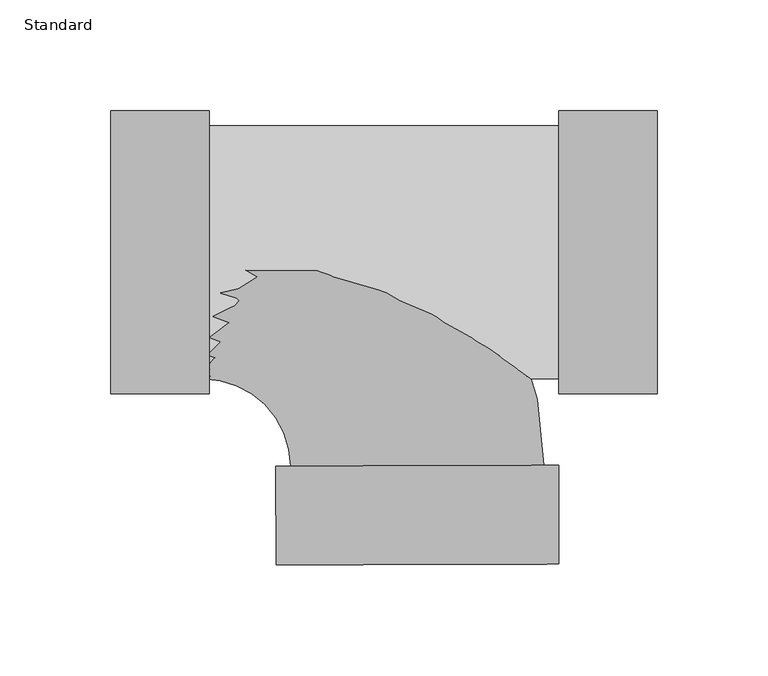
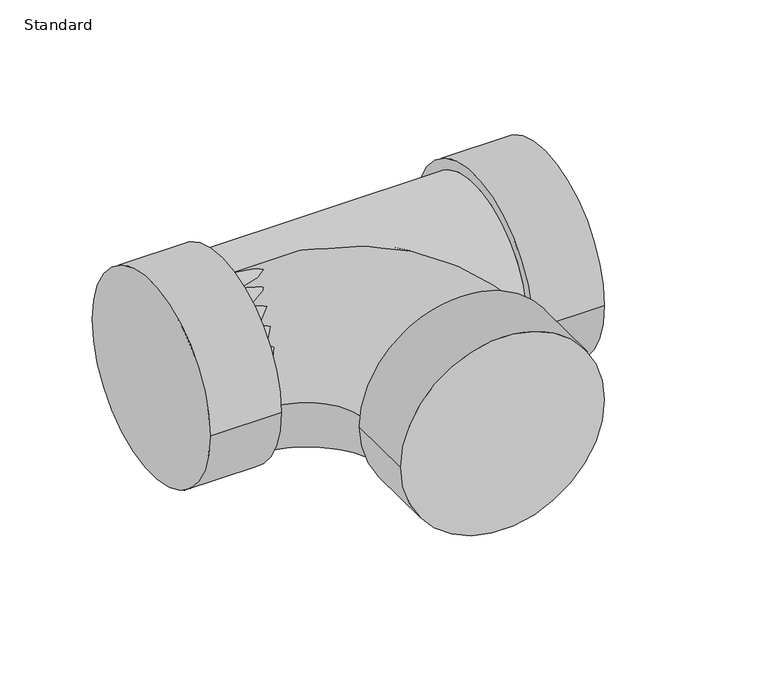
"""IFC4 building model written with IfcOpenShell, lengths in millimetres: pipe fitting geometry, EG-RCAN Té sanitaire de réduction - PVC - Nom. 40 - DWV : Standard."""

import ifcopenshell
import ifcopenshell.guid

model = None  # the IFC model being written
_history = None  # IfcOwnerHistory: only IFC2X3 demands one
_inside = {}  # id of a spatial element -> (the spatial element, [elements in it])
_under = {}  # id of a project, library or spatial element -> (it, [spatial elements below it])
_declared = {}  # id of a project -> (the project, [libraries it declares])
_typed = {}  # id of a type object -> (the type object, [elements of that type])
_made_of = {}  # id of a material, layer set ... -> (it, [elements and type objects made of it])


def new_model(schema):
    """Start an empty IFC model of exactly this schema.

    Asked for "IFC4X3", IfcOpenShell would pick the latest addendum, in which some entities
    have other attributes; the version numbers below select the first issue.
    IFC2X3 requires an IfcOwnerHistory on every rooted entity: one is made here for all.
    """
    global model, _history
    if schema == "IFC4X3":
        model = ifcopenshell.file(schema_version=(4, 3, 0, 0))
    else:
        model = ifcopenshell.file(schema=schema)
    _inside.clear()
    _under.clear()
    _declared.clear()
    _typed.clear()
    _made_of.clear()
    _history = None
    if model.schema == "IFC2X3":
        org = make("IfcOrganization", Name="unknown")
        user = make(
            "IfcPersonAndOrganization",
            ThePerson=make("IfcPerson", FamilyName="unknown"),
            TheOrganization=org,
        )
        app = make(
            "IfcApplication",
            ApplicationDeveloper=org,
            Version="unknown",
            ApplicationFullName="unknown",
            ApplicationIdentifier="unknown",
        )
        _history = make(
            "IfcOwnerHistory",
            OwningUser=user,
            OwningApplication=app,
            ChangeAction="ADDED",
            CreationDate=0,
        )
    return model


def make(cls, **values):
    """One entity of the class cls with the attributes given. An attribute that is None is left unset."""
    return model.create_entity(
        cls, **{name: value for name, value in values.items() if value is not None}
    )


def rooted(cls, **values):
    """An entity with a GlobalId (a new one), such as an element, a storey or a relation."""
    return make(cls, GlobalId=ifcopenshell.guid.new(), OwnerHistory=_history, **values)


def si_unit(unit_type, name, prefix=None):
    """IfcSIUnit, for example si_unit("LENGTHUNIT", "METRE", prefix="MILLI")."""
    return make("IfcSIUnit", UnitType=unit_type, Prefix=prefix, Name=name)


def assignment(units):
    """IfcUnitAssignment: the units of a project."""
    return None if units is None else make("IfcUnitAssignment", Units=units)


def point(xyz):
    """IfcCartesianPoint."""
    return None if xyz is None else make("IfcCartesianPoint", Coordinates=xyz)


def direction(xyz):
    """IfcDirection."""
    return None if xyz is None else make("IfcDirection", DirectionRatios=xyz)


def frame(location, z_axis=None, x_axis=None):
    """IfcAxis2Placement3D, a coordinate frame: its origin and axes. An axis left out is left unset."""
    return make(
        "IfcAxis2Placement3D",
        Location=point(location),
        Axis=direction(z_axis),
        RefDirection=direction(x_axis),
    )


def origin():
    """The frame at (0, 0, 0) with its axes left unset."""
    return frame((0.0, 0.0, 0.0))


def place(relative_to, where):
    """IfcLocalPlacement: puts the frame where relative to a parent placement (None: the world)."""
    return make(
        "IfcLocalPlacement", PlacementRelTo=relative_to, RelativePlacement=where
    )


def context(
    kind, dimensions, precision=None, world=None, true_north=None, identifier=None
):
    """IfcGeometricRepresentationContext, for example the 3D "Model" context."""
    return make(
        "IfcGeometricRepresentationContext",
        ContextIdentifier=identifier,
        ContextType=kind,
        CoordinateSpaceDimension=dimensions,
        Precision=precision,
        WorldCoordinateSystem=world,
        TrueNorth=true_north,
    )


def project(units=None, contexts=None):
    """IfcProject with its units and contexts."""
    return rooted(
        "IfcProject",
        Name="project",
        RepresentationContexts=contexts,
        UnitsInContext=assignment(units),
    )


def spatial(cls, under=None, at=None, **own):
    """A site, building, storey or space (cls), placed at a placement, below another one or the project."""
    s = rooted(cls, ObjectPlacement=at, **own)
    if under is not None:
        _under.setdefault(under.id(), (under, []))[1].append(s)
    return s


def circle_curve(where, radius):
    """IfcCircle in the frame where."""
    return make("IfcCircle", Position=where, Radius=radius)


def ellipse_curve(where, semi_axis1, semi_axis2):
    """IfcEllipse in the frame where."""
    return make(
        "IfcEllipse", Position=where, SemiAxis1=semi_axis1, SemiAxis2=semi_axis2
    )


def trimmed(basis, trim1, trim2, sense, master):
    """IfcTrimmedCurve: the piece of a basis curve between two trims."""
    return make(
        "IfcTrimmedCurve",
        BasisCurve=basis,
        Trim1=trim1,
        Trim2=trim2,
        SenseAgreement=sense,
        MasterRepresentation=master,
    )


def shape(context_of_items, identifier, shape_type, items):
    """IfcShapeRepresentation: the items that make up one representation, for example the "Body"."""
    return make(
        "IfcShapeRepresentation",
        ContextOfItems=context_of_items,
        RepresentationIdentifier=identifier,
        RepresentationType=shape_type,
        Items=items,
    )


def source(mapping_origin, context_of_items, identifier, shape_type, items):
    """IfcRepresentationMap: a shape defined once, which mapped items show again and again."""
    return make(
        "IfcRepresentationMap",
        MappingOrigin=mapping_origin,
        MappedRepresentation=shape(context_of_items, identifier, shape_type, items),
    )


def transform(
    local_origin,
    x_axis=None,
    y_axis=None,
    z_axis=None,
    scale=None,
    scale2=None,
    scale3=None,
    uniform=True,
):
    """IfcCartesianTransformationOperator3D, or its non-uniform kind. x_axis, y_axis, z_axis: its Axis1, 2, 3."""
    if uniform:
        return make(
            "IfcCartesianTransformationOperator3D",
            Axis1=direction(x_axis),
            Axis2=direction(y_axis),
            LocalOrigin=point(local_origin),
            Scale=scale,
            Axis3=direction(z_axis),
        )
    return make(
        "IfcCartesianTransformationOperator3DnonUniform",
        Axis1=direction(x_axis),
        Axis2=direction(y_axis),
        LocalOrigin=point(local_origin),
        Scale=scale,
        Axis3=direction(z_axis),
        Scale2=scale2,
        Scale3=scale3,
    )


def mapped(mapping_source, mapping_target):
    """IfcMappedItem: shows the shape of a source again, moved by a transform."""
    return make(
        "IfcMappedItem", MappingSource=mapping_source, MappingTarget=mapping_target
    )


def made_of(thing, what):
    """Note that an element or type object is made of a material, layer set ...; save() writes the relation."""
    if what is not None:
        _made_of.setdefault(what.id(), (what, []))[1].append(thing)
    return thing


def element(
    cls,
    number,
    at=None,
    inside=None,
    cuts=None,
    type_object=None,
    material=None,
    context=None,
    identifier="Body",
    shape_type=None,
    held_by="IfcProductDefinitionShape",
    body=None,
    shapes=None,
    **own,
):
    """One element of the class cls, such as IfcWall. Its Tag is "e" and its number.

    at: its placement. inside: the storey or other place that contains it. cuts: it is an
    opening in that element (IfcRelVoidsElement). A single representation is given by context,
    identifier, shape_type and body (its items); several are given by shapes. held_by: the class
    of the entity that holds the representations. save() writes the other relations.
    """
    e = rooted(cls, Tag="e%d" % number, ObjectPlacement=at, **own)
    if body is not None:
        shapes = [shape(context, identifier, shape_type, body)]
    if shapes is not None:
        e.Representation = make(held_by, Representations=shapes)
    if inside is not None:
        _inside.setdefault(inside.id(), (inside, []))[1].append(e)
    if cuts is not None:
        rooted(
            "IfcRelVoidsElement", RelatingBuildingElement=cuts, RelatedOpeningElement=e
        )
    if type_object is not None:
        _typed.setdefault(type_object.id(), (type_object, []))[1].append(e)
    return made_of(e, material)


def aggregate(whole, parts):
    """IfcRelAggregates: a whole, such as a stair, and the parts it consists of."""
    return rooted("IfcRelAggregates", RelatingObject=whole, RelatedObjects=parts)


def save(model, path):
    """Write the relations noted so far, then the file.

    IfcRelAggregates (storeys below a building ...), IfcRelContainedInSpatialStructure (elements
    in a storey), IfcRelDefinesByType, IfcRelAssociatesMaterial and IfcRelDeclares: one each for
    every whole, place, type object, material and project.
    """
    for whole, parts in _under.values():
        aggregate(whole, parts)
    for where, things in _inside.values():
        rooted(
            "IfcRelContainedInSpatialStructure",
            RelatedElements=things,
            RelatingStructure=where,
        )
    for kind, things in _typed.values():
        rooted("IfcRelDefinesByType", RelatedObjects=things, RelatingType=kind)
    for what, things in _made_of.values():
        rooted("IfcRelAssociatesMaterial", RelatedObjects=things, RelatingMaterial=what)
    for by, libraries in _declared.values():
        rooted("IfcRelDeclares", RelatingContext=by, RelatedDefinitions=libraries)
    model.write(path)


def plane_surface(at):
    """IfcPlane: the flat surface through the origin of the frame at, square to its z axis."""
    return make("IfcPlane", Position=at)


def cylinder_surface(at, radius):
    """IfcCylindricalSurface: all points at the distance radius from the z axis of the frame at."""
    return make("IfcCylindricalSurface", Position=at, Radius=radius)


def revolved_surface(curve, axis_point, axis_direction):
    """IfcSurfaceOfRevolution: the curve turned about the line through axis_point along axis_direction."""
    return make(
        "IfcSurfaceOfRevolution",
        SweptCurve=make("IfcArbitraryOpenProfileDef", ProfileType="CURVE", Curve=curve),
        AxisPosition=make("IfcAxis1Placement", Location=point(axis_point), Axis=direction(axis_direction)),
    )


def advanced_brep(points, edges, surfaces, faces):
    """IfcAdvancedBrep: a solid bounded by faces that lie on surfaces and meet in shared edges.

    An edge is (start, end): straight between two places in points (the first is 0);
    or (start, end, curve); or (start, end, curve, False) where it runs against its curve.
    A face is (place in surfaces, loops), or (place, loops, False) where it looks against
    its surface's normal. A loop lists edges by number (the first is 1), with a minus sign
    where the edge is run from its end to its start. The first loop is the outer one.
    """
    corners = [point(p) for p in points]
    vertices = [make("IfcVertexPoint", VertexGeometry=c) for c in corners]
    made = []
    for start, end, *more in edges:
        made.append(
            make(
                "IfcEdgeCurve",
                EdgeStart=vertices[start],
                EdgeEnd=vertices[end],
                EdgeGeometry=more[0] if more else make("IfcPolyline", Points=[corners[start], corners[end]]),
                SameSense=more[1] if len(more) > 1 else True,
            )
        )
    hull = []
    for where, loops, *sense in faces:
        bounds = []
        for j, loop in enumerate(loops):
            ring = [make("IfcOrientedEdge", EdgeElement=made[abs(k) - 1], Orientation=k > 0) for k in loop]
            bounds.append(
                make(
                    "IfcFaceOuterBound" if j == 0 else "IfcFaceBound",
                    Bound=make("IfcEdgeLoop", EdgeList=ring),
                    Orientation=True,
                )
            )
        hull.append(make("IfcAdvancedFace", Bounds=bounds, FaceSurface=surfaces[where], SameSense=sense[0] if sense else True))
    return make("IfcAdvancedBrep", Outer=make("IfcClosedShell", CfsFaces=hull))


def standard_b944262a(model_context):
    return source(origin(), model_context, "Body", "AdvancedBrep", [
        advanced_brep(
        [(64.0366574, -63.754, 0.0), (64.0366574, 63.754, 0.0), (64.0366574, -57.15, 0.0), (64.0366574, 57.15, 0.0), (108.4866574, -63.754, 0.0), (108.4866574, 63.754, 0.0), (-93.4599062, 57.15, 0.0), (-93.4599062, -57.15, 0.0), (-137.9099062, -63.754, 0.0), (-137.9099062, 63.754, 0.0), (-93.4599062, -63.754, 0.0), (-93.4599062, 63.754, 0.0)],
        [
            (0, 1, circle_curve(frame((64.0366574, 0.0, 0.0), z_axis=(-1.0, 0.0, 0.0), x_axis=(0.0, 1.0, 0.0)), 63.754)),
            (1, 0, circle_curve(frame((64.0366574, 0.0, 0.0), z_axis=(-1.0, 0.0, 0.0), x_axis=(0.0, 1.0, 0.0)), 63.754)),
            (2, 3, circle_curve(frame((64.0366574, 0.0, 0.0), z_axis=(1.0, 0.0, 0.0), x_axis=(0.0, 0.0, -1.0)), 57.15)),
            (3, 2, circle_curve(frame((64.0366574, 0.0, 0.0), z_axis=(1.0, 0.0, 0.0), x_axis=(0.0, 0.0, 1.0)), 57.15)),
            (4, 5, circle_curve(frame((108.4866574, 0.0, 0.0), z_axis=(1.0, 0.0, 0.0), x_axis=(0.0, 1.0, 0.0)), 63.754)),
            (5, 4, circle_curve(frame((108.4866574, 0.0, 0.0), z_axis=(1.0, 0.0, 0.0), x_axis=(0.0, 1.0, 0.0)), 63.754)),
            (0, 4),
            (5, 1),
            (6, 3),
            (2, 7),
            (7, 6, circle_curve(frame((-93.4599062, 0.0, 0.0), z_axis=(1.0, 0.0, 0.0), x_axis=(0.0, 0.0, -1.0)), 57.15)),
            (6, 7, circle_curve(frame((-93.4599062, 0.0, 0.0), z_axis=(1.0, 0.0, 0.0), x_axis=(0.0, 0.0, 1.0)), 57.15)),
            (8, 9, circle_curve(frame((-137.9099062, 0.0, 0.0), z_axis=(-1.0, 0.0, 0.0), x_axis=(0.0, 1.0, 0.0)), 63.754)),
            (9, 8, circle_curve(frame((-137.9099062, 0.0, 0.0), z_axis=(-1.0, 0.0, 0.0), x_axis=(0.0, 1.0, 0.0)), 63.754)),
            (10, 11, circle_curve(frame((-93.4599062, 0.0, 0.0), z_axis=(1.0, 0.0, 0.0), x_axis=(0.0, 1.0, 0.0)), 63.754)),
            (11, 10, circle_curve(frame((-93.4599062, 0.0, 0.0), z_axis=(1.0, 0.0, 0.0), x_axis=(0.0, 1.0, 0.0)), 63.754)),
            (8, 10),
            (11, 9),
        ],
        [
            plane_surface(frame((64.0366574, 0.0, 0.0), z_axis=(-1.0, 0.0, 0.0), x_axis=(0.0, 0.0, 1.0))),
            plane_surface(frame((108.4866574, 0.0, 0.0), z_axis=(1.0, 0.0, 0.0), x_axis=(0.0, 0.0, 1.0))),
            cylinder_surface(frame((64.0366574, 0.0, 0.0), z_axis=(-1.0, 0.0, 0.0), x_axis=(0.0, 1.0, 0.0)), 63.754),
            cylinder_surface(frame((-93.4599062, 0.0, 0.0), z_axis=(1.0, 0.0, 0.0), x_axis=(0.0, 0.0, -1.0)), 57.15),
            cylinder_surface(frame((-93.4599062, 0.0, 0.0), z_axis=(1.0, 0.0, 0.0), x_axis=(0.0, 0.0, 1.0)), 57.15),
            plane_surface(frame((-137.9099062, 0.0, 0.0), z_axis=(-1.0, 0.0, 0.0), x_axis=(0.0, 0.0, 1.0))),
            plane_surface(frame((-93.4599062, 0.0, 0.0), z_axis=(1.0, 0.0, 0.0), x_axis=(0.0, 0.0, 1.0))),
            cylinder_surface(frame((-137.9099062, 0.0, 0.0), z_axis=(-1.0, 0.0, 0.0), x_axis=(0.0, 1.0, 0.0)), 63.754),
        ],
        [
            (0, [[1, 2], [3, 4]]),
            (1, [[5, 6]]),
            (2, [[-1, 7, -6, 8]]),
            (2, [[-2, -8, -5, -7]]),
            (3, [[9, -3, 10, 11]]),
            (4, [[-9, 12, -10, -4]]),
            (5, [[13, 14]]),
            (6, [[15, 16], [-11, -12]]),
            (7, [[-13, 17, -16, 18]]),
            (7, [[-14, -18, -15, -17]]),
        ],
    ),
        advanced_brep(
        [(-63.4707929, -96.5344593, 0.0), (64.0366574, -96.1600223, 0.0), (57.4326858, -96.1794155, 0.0), (-56.8668213, -96.5150662, 0.0), (-63.340262, -140.9842677, 0.0), (64.1671882, -140.6098307, 0.0), (-96.3476562, -57.15, 0.0), (-96.3476562, 57.15, 0.0)],
        [
            (0, 1, circle_curve(frame((0.2829322, -96.3472408, 0.0), z_axis=(-0.00293657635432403, 0.9999956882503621, 0.0), x_axis=(0.9999956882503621, 0.00293657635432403, 0.0)), 63.754)),
            (1, 0, circle_curve(frame((0.2829322, -96.3472408, 0.0), z_axis=(-0.00293657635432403, 0.9999956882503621, 0.0), x_axis=(0.9999956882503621, 0.00293657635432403, 0.0)), 63.754)),
            (2, 3, circle_curve(frame((0.2829322, -96.3472408, 0.0), z_axis=(0.0029365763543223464, -0.999995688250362, 0.0), x_axis=(0.999995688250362, 0.0029365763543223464, 0.0)), 57.15)),
            (3, 2, circle_curve(frame((0.2829322, -96.3472408, 0.0), z_axis=(0.0029365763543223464, -0.999995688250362, 0.0), x_axis=(0.999995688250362, 0.0029365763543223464, 0.0)), 57.15)),
            (4, 5, circle_curve(frame((0.4134631, -140.7970492, 0.0), z_axis=(0.00293657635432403, -0.9999956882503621, 0.0), x_axis=(0.9999956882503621, 0.00293657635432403, 0.0)), 63.754)),
            (5, 4, circle_curve(frame((0.4134631, -140.7970492, 0.0), z_axis=(0.00293657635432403, -0.9999956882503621, 0.0), x_axis=(0.9999956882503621, 0.00293657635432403, 0.0)), 63.754)),
            (0, 4),
            (5, 1),
            (6, 7, circle_curve(frame((-96.3476562, 0.0, 0.0), z_axis=(-1.0, 0.0, 0.0), x_axis=(0.0, 1.0, 0.0)), 57.15)),
            (7, 6, circle_curve(frame((-96.3476562, 0.0, 0.0), z_axis=(-1.0, 0.0, 0.0), x_axis=(0.0, 1.0, 0.0)), 57.15)),
            (6, 3, circle_curve(frame((-96.3476562, -96.6310051, 0.0), z_axis=(0.0, 0.0, -1.0), x_axis=(0.0, 1.0, 0.0)), 39.4810051)),
            (2, 7, circle_curve(frame((-96.3476562, -96.6310051, 0.0), z_axis=(0.0, 0.0, 1.0), x_axis=(0.0, 1.0, 0.0)), 153.7810051)),
        ],
        [
            plane_surface(frame((0.2829322, -96.3472408, 0.0), z_axis=(-0.00293657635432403, 0.9999956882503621, 0.0), x_axis=(0.0, 0.0, 1.0))),
            plane_surface(frame((0.4134631, -140.7970492, 0.0), z_axis=(0.00293657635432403, -0.9999956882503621, 0.0), x_axis=(0.0, 0.0, 1.0))),
            cylinder_surface(frame((0.2829322, -96.3472408, 0.0), z_axis=(-0.00293657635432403, 0.9999956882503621, 0.0), x_axis=(0.9999956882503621, 0.00293657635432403, 0.0)), 63.754),
            plane_surface(frame((-96.3476562, 0.0, 0.0), z_axis=(-1.0, 0.0, 0.0), x_axis=(0.0, 0.0, 1.0))),
            revolved_surface(trimmed(ellipse_curve(frame((-96.3476562, 0.0, 0.0), z_axis=(-1.0, 0.0, 0.0), x_axis=(0.0, 1.0, 0.0)), 57.15, 57.15), [point((-96.3476562, -57.15, 0.0))], [point((-96.3476562, 57.15, 0.0))], True, "CARTESIAN"), (-96.3476562, -96.6310051, 0.0), (0.0, 0.0, -1.0)),
            revolved_surface(trimmed(ellipse_curve(frame((-96.3476562, 0.0, 0.0), z_axis=(-1.0, 0.0, 0.0), x_axis=(0.0, 1.0, 0.0)), 57.15, 57.15), [point((-96.3476562, 57.15, 0.0))], [point((-96.3476562, -57.15, 0.0))], True, "CARTESIAN"), (-96.3476562, -96.6310051, 0.0), (0.0, 0.0, -1.0)),
        ],
        [
            (0, [[1, 2], [3, 4]]),
            (1, [[5, 6]]),
            (2, [[-1, 7, -6, 8]]),
            (2, [[-2, -8, -5, -7]]),
            (3, [[9, 10]]),
            (4, [[-9, 11, -3, 12]]),
            (5, [[-10, -12, -4, -11]]),
        ],
    ),
    ])


if __name__ == "__main__":
    model = new_model("IFC4")
    model_context = context("Model", 3, world=origin())
    ifc_project = project(units=[si_unit("LENGTHUNIT", "METRE", prefix="MILLI")], contexts=[model_context])
    site = spatial("IfcSite", under=ifc_project)
    building = spatial("IfcBuilding", under=site)
    placement = place(None, origin())
    standard_shape = standard_b944262a(model_context)
    element("IfcPipeFitting", 1, ObjectType="EG-RCAN Té sanitaire de réduction - PVC - Nom. 40 - DWV : Standard", at=placement, inside=building, context=model_context, shape_type="MappedRepresentation", body=[
        mapped(standard_shape, transform((0.0, 0.0, 0.0), x_axis=(1.0, 0.0, 0.0), y_axis=(0.0, 1.0, 0.0), z_axis=(0.0, 0.0, 1.0))),
    ])
    save(model, "model.ifc")
